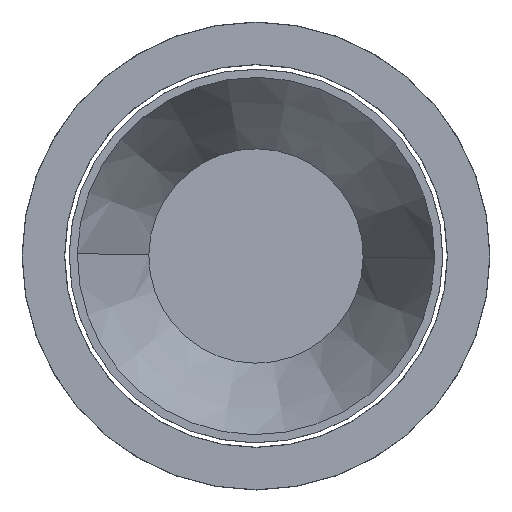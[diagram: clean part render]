
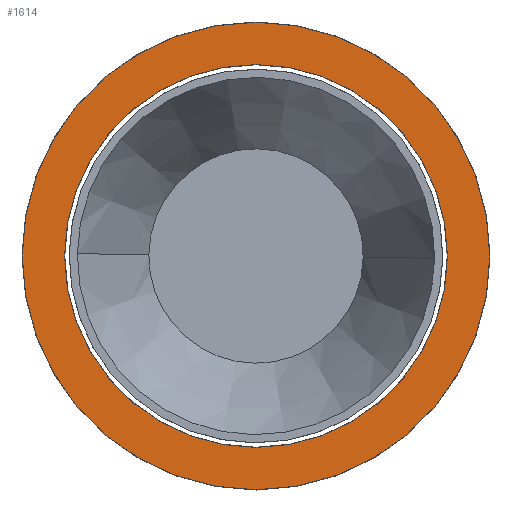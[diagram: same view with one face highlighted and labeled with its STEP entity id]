
A CAD part, front view. The second image highlights one B-rep face of the part: STEP entity #1614.
In plain terms, the highlighted planar face has unit normal (0, -1, 0).
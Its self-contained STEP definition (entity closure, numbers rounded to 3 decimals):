
#34 = CARTESIAN_POINT ( 'NONE',  ( 0., 0., 0. ) ) ;
#110 = CIRCLE ( 'NONE', #2254, 45.8 ) ;
#117 = AXIS2_PLACEMENT_3D ( 'NONE', #1654, #811, #477 ) ;
#141 = CARTESIAN_POINT ( 'NONE',  ( 0., 0., 0. ) ) ;
#155 = DIRECTION ( 'NONE',  ( 0., 0., 1. ) ) ;
#242 = EDGE_CURVE ( 'NONE', #659, #1618, #1483, .T. ) ;
#294 = VERTEX_POINT ( 'NONE', #2558 ) ;
#336 = FACE_BOUND ( 'NONE', #525, .T. ) ;
#384 = AXIS2_PLACEMENT_3D ( 'NONE', #141, #1896, #155 ) ;
#477 = DIRECTION ( 'NONE',  ( 0., 0., 1. ) ) ;
#525 = EDGE_LOOP ( 'NONE', ( #1342, #1526 ) ) ;
#659 = VERTEX_POINT ( 'NONE', #2613 ) ;
#710 = EDGE_CURVE ( 'NONE', #3109, #294, #2750, .T. ) ;
#811 = DIRECTION ( 'NONE',  ( 0., 1., 0. ) ) ;
#1063 = CIRCLE ( 'NONE', #384, 37.5 ) ;
#1115 = CARTESIAN_POINT ( 'NONE',  ( 0., 0., 0. ) ) ;
#1132 = AXIS2_PLACEMENT_3D ( 'NONE', #1115, #2913, #3249 ) ;
#1191 = CARTESIAN_POINT ( 'NONE',  ( 0., 0., 45.8 ) ) ;
#1342 = ORIENTED_EDGE ( 'NONE', *, *, #242, .T. ) ;
#1388 = DIRECTION ( 'NONE',  ( 0., 0., 1. ) ) ;
#1399 = ORIENTED_EDGE ( 'NONE', *, *, #710, .F. ) ;
#1447 = ORIENTED_EDGE ( 'NONE', *, *, #1645, .F. ) ;
#1483 = CIRCLE ( 'NONE', #1913, 37.5 ) ;
#1526 = ORIENTED_EDGE ( 'NONE', *, *, #2711, .T. ) ;
#1614 = ADVANCED_FACE ( 'NONE', ( #2495, #336 ), #2988, .F. ) ;
#1618 = VERTEX_POINT ( 'NONE', #1683 ) ;
#1645 = EDGE_CURVE ( 'NONE', #294, #3109, #110, .T. ) ;
#1654 = CARTESIAN_POINT ( 'NONE',  ( 0., 0., 0. ) ) ;
#1683 = CARTESIAN_POINT ( 'NONE',  ( 0., 0., -37.5 ) ) ;
#1896 = DIRECTION ( 'NONE',  ( 0., 1., 0. ) ) ;
#1913 = AXIS2_PLACEMENT_3D ( 'NONE', #2279, #2201, #3353 ) ;
#2201 = DIRECTION ( 'NONE',  ( 0., 1., 0. ) ) ;
#2254 = AXIS2_PLACEMENT_3D ( 'NONE', #34, #2422, #1388 ) ;
#2279 = CARTESIAN_POINT ( 'NONE',  ( 0., 0., 0. ) ) ;
#2322 = EDGE_LOOP ( 'NONE', ( #1399, #1447 ) ) ;
#2422 = DIRECTION ( 'NONE',  ( 0., 1., 0. ) ) ;
#2495 = FACE_OUTER_BOUND ( 'NONE', #2322, .T. ) ;
#2558 = CARTESIAN_POINT ( 'NONE',  ( 0., 0., -45.8 ) ) ;
#2613 = CARTESIAN_POINT ( 'NONE',  ( 0., 0., 37.5 ) ) ;
#2711 = EDGE_CURVE ( 'NONE', #1618, #659, #1063, .T. ) ;
#2750 = CIRCLE ( 'NONE', #1132, 45.8 ) ;
#2913 = DIRECTION ( 'NONE',  ( 0., 1., 0. ) ) ;
#2988 = PLANE ( 'NONE',  #117 ) ;
#3109 = VERTEX_POINT ( 'NONE', #1191 ) ;
#3249 = DIRECTION ( 'NONE',  ( 0., 0., 1. ) ) ;
#3353 = DIRECTION ( 'NONE',  ( 0., 0., 1. ) ) ;
